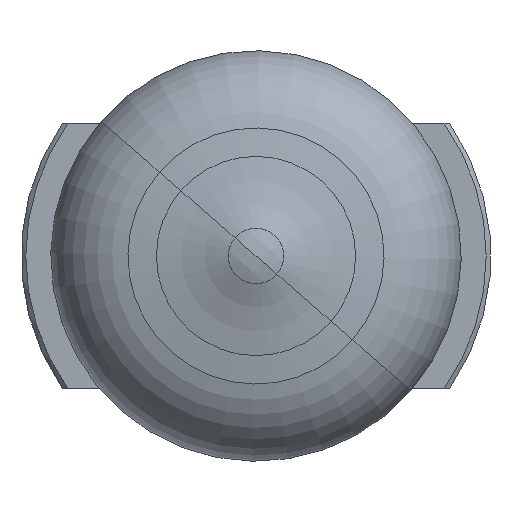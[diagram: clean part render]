
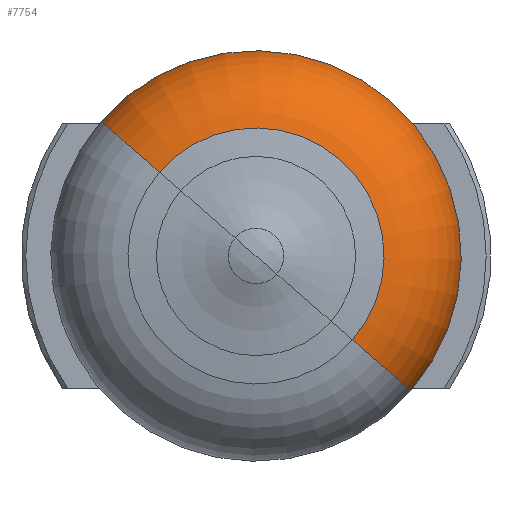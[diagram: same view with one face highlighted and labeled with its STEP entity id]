
A CAD part, left-side view. The second image highlights one B-rep face of the part: STEP entity #7754.
In plain terms, the highlighted toroidal (fillet/blend) face has major radius 2.375 mm and minor radius 2 mm.
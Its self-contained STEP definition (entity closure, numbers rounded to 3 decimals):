
#159 = CARTESIAN_POINT ( 'NONE',  ( -9.188, -4.375, 0. ) ) ;
#553 = EDGE_CURVE ( 'NONE', #7956, #779, #8170, .T. ) ;
#733 = DIRECTION ( 'NONE',  ( 0., 0., 1. ) ) ;
#779 = VERTEX_POINT ( 'NONE', #3556 ) ;
#1159 = DIRECTION ( 'NONE',  ( -1., 0., 0. ) ) ;
#1223 = CIRCLE ( 'NONE', #3192, 2. ) ;
#1536 = EDGE_CURVE ( 'NONE', #779, #4290, #1223, .T. ) ;
#1559 = DIRECTION ( 'NONE',  ( 0., -1., 0. ) ) ;
#1911 = AXIS2_PLACEMENT_3D ( 'NONE', #2896, #1159, #7373 ) ;
#2171 = AXIS2_PLACEMENT_3D ( 'NONE', #4318, #5231, #9354 ) ;
#2225 = AXIS2_PLACEMENT_3D ( 'NONE', #4104, #9950, #9138 ) ;
#2842 = DIRECTION ( 'NONE',  ( -1., 0., 0. ) ) ;
#2896 = CARTESIAN_POINT ( 'NONE',  ( -9.188, 0., 0. ) ) ;
#3156 = ORIENTED_EDGE ( 'NONE', *, *, #4749, .F. ) ;
#3192 = AXIS2_PLACEMENT_3D ( 'NONE', #8445, #733, #1559 ) ;
#3556 = CARTESIAN_POINT ( 'NONE',  ( -9.188, 4.375, 0. ) ) ;
#3688 = CARTESIAN_POINT ( 'NONE',  ( -9.188, -2.375, 0. ) ) ;
#4104 = CARTESIAN_POINT ( 'NONE',  ( -11.157, 0., 0. ) ) ;
#4205 = VERTEX_POINT ( 'NONE', #5786 ) ;
#4290 = VERTEX_POINT ( 'NONE', #10902 ) ;
#4318 = CARTESIAN_POINT ( 'NONE',  ( -9.188, 0., 0. ) ) ;
#4731 = ORIENTED_EDGE ( 'NONE', *, *, #6770, .F. ) ;
#4749 = EDGE_CURVE ( 'NONE', #4205, #4290, #7220, .T. ) ;
#4921 = ORIENTED_EDGE ( 'NONE', *, *, #1536, .T. ) ;
#5231 = DIRECTION ( 'NONE',  ( -1., 0., 0. ) ) ;
#5508 = AXIS2_PLACEMENT_3D ( 'NONE', #3688, #10582, #2842 ) ;
#5670 = EDGE_LOOP ( 'NONE', ( #5877, #4921, #3156, #4731 ) ) ;
#5786 = CARTESIAN_POINT ( 'NONE',  ( -11.157, -2.728, 0. ) ) ;
#5877 = ORIENTED_EDGE ( 'NONE', *, *, #553, .T. ) ;
#6770 = EDGE_CURVE ( 'NONE', #7956, #4205, #9592, .T. ) ;
#7220 = CIRCLE ( 'NONE', #2225, 2.728 ) ;
#7373 = DIRECTION ( 'NONE',  ( 0., -1., 0. ) ) ;
#7754 = ADVANCED_FACE ( 'NONE', ( #10511 ), #10372, .T. ) ;
#7956 = VERTEX_POINT ( 'NONE', #159 ) ;
#8170 = CIRCLE ( 'NONE', #1911, 4.375 ) ;
#8445 = CARTESIAN_POINT ( 'NONE',  ( -9.188, 2.375, 0. ) ) ;
#9138 = DIRECTION ( 'NONE',  ( 0., -1., 0. ) ) ;
#9354 = DIRECTION ( 'NONE',  ( 0., -1., 0. ) ) ;
#9592 = CIRCLE ( 'NONE', #5508, 2. ) ;
#9950 = DIRECTION ( 'NONE',  ( -1., 0., 0. ) ) ;
#10372 = TOROIDAL_SURFACE ( 'NONE', #2171, 2.375, 2. ) ;
#10511 = FACE_OUTER_BOUND ( 'NONE', #5670, .T. ) ;
#10582 = DIRECTION ( 'NONE',  ( 0., 0., -1. ) ) ;
#10902 = CARTESIAN_POINT ( 'NONE',  ( -11.157, 2.728, 0. ) ) ;
